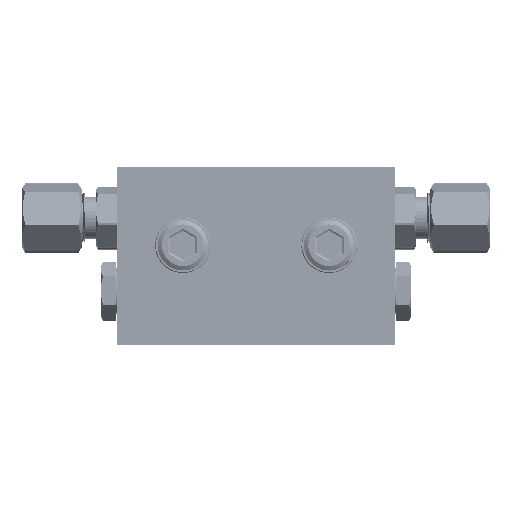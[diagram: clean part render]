
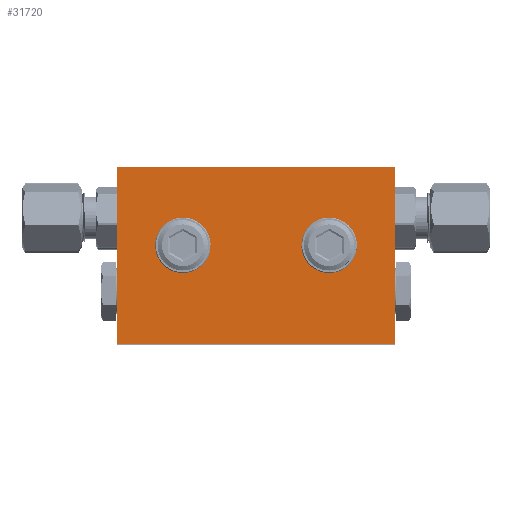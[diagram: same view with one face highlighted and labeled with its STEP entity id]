
A CAD part, top view. The second image highlights one B-rep face of the part: STEP entity #31720.
In plain terms, the highlighted planar face has unit normal (0, 0, 1) as drawn and (0, 0, -1) by its records, which use the part's own axes.
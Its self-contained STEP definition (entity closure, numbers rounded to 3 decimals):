
#559 = DIRECTION ( 'NONE',  ( -1., 0., 0. ) ) ;
#979 = ORIENTED_EDGE ( 'NONE', *, *, #11544, .F. ) ;
#1052 = VERTEX_POINT ( 'NONE', #14261 ) ;
#1756 = LINE ( 'NONE', #25021, #7982 ) ;
#2335 = PLANE ( 'NONE',  #35427 ) ;
#2770 = FACE_OUTER_BOUND ( 'NONE', #35326, .T. ) ;
#3629 = VERTEX_POINT ( 'NONE', #22700 ) ;
#3691 = DIRECTION ( 'NONE',  ( 0., 0., -1. ) ) ;
#4173 = EDGE_CURVE ( 'NONE', #22596, #22596, #16539, .T. ) ;
#5025 = VERTEX_POINT ( 'NONE', #14115 ) ;
#5037 = CIRCLE ( 'NONE', #8441, 3.1 ) ;
#5828 = ORIENTED_EDGE ( 'NONE', *, *, #16849, .F. ) ;
#6237 = CARTESIAN_POINT ( 'NONE',  ( 0., 0., -4.85 ) ) ;
#6912 = CARTESIAN_POINT ( 'NONE',  ( 14.5, -15.5, -4.85 ) ) ;
#7982 = VECTOR ( 'NONE', #28532, 1000. ) ;
#8441 = AXIS2_PLACEMENT_3D ( 'NONE', #6912, #3691, #16900 ) ;
#10057 = CARTESIAN_POINT ( 'NONE',  ( -27.5, 0., -4.85 ) ) ;
#11087 = ORIENTED_EDGE ( 'NONE', *, *, #37575, .F. ) ;
#11544 = EDGE_CURVE ( 'NONE', #3629, #25929, #28338, .T. ) ;
#12031 = EDGE_LOOP ( 'NONE', ( #5828 ) ) ;
#14115 = CARTESIAN_POINT ( 'NONE',  ( 27.5, -35., -4.85 ) ) ;
#14261 = CARTESIAN_POINT ( 'NONE',  ( 11.4, -15.5, -4.85 ) ) ;
#14899 = CARTESIAN_POINT ( 'NONE',  ( -27.5, -35., -4.85 ) ) ;
#16539 = CIRCLE ( 'NONE', #36139, 3.1 ) ;
#16849 = EDGE_CURVE ( 'NONE', #1052, #1052, #5037, .T. ) ;
#16900 = DIRECTION ( 'NONE',  ( -1., 0., 0. ) ) ;
#18789 = VECTOR ( 'NONE', #559, 1000. ) ;
#19311 = CARTESIAN_POINT ( 'NONE',  ( 27.5, 0., -4.85 ) ) ;
#21922 = DIRECTION ( 'NONE',  ( 0., 0., -1. ) ) ;
#22174 = VERTEX_POINT ( 'NONE', #14899 ) ;
#22385 = CARTESIAN_POINT ( 'NONE',  ( -11.4, -15.5, -4.85 ) ) ;
#22533 = VECTOR ( 'NONE', #32694, 1000. ) ;
#22596 = VERTEX_POINT ( 'NONE', #22385 ) ;
#22700 = CARTESIAN_POINT ( 'NONE',  ( 27.5, 0., -4.85 ) ) ;
#25021 = CARTESIAN_POINT ( 'NONE',  ( 0., -35., -4.85 ) ) ;
#25407 = DIRECTION ( 'NONE',  ( 0., -1., 0. ) ) ;
#25447 = DIRECTION ( 'NONE',  ( 1., 0., 0. ) ) ;
#25842 = CARTESIAN_POINT ( 'NONE',  ( -27.5, 0., -4.85 ) ) ;
#25929 = VERTEX_POINT ( 'NONE', #10057 ) ;
#27632 = VECTOR ( 'NONE', #25407, 1000. ) ;
#28338 = LINE ( 'NONE', #31242, #18789 ) ;
#28532 = DIRECTION ( 'NONE',  ( 1., 0., 0. ) ) ;
#28692 = LINE ( 'NONE', #25842, #27632 ) ;
#28897 = FACE_BOUND ( 'NONE', #29336, .T. ) ;
#29336 = EDGE_LOOP ( 'NONE', ( #32476 ) ) ;
#29566 = FACE_BOUND ( 'NONE', #12031, .T. ) ;
#31242 = CARTESIAN_POINT ( 'NONE',  ( 0., 0., -4.85 ) ) ;
#31720 = ADVANCED_FACE ( 'NONE', ( #28897, #29566, #2770 ), #2335, .F. ) ;
#32476 = ORIENTED_EDGE ( 'NONE', *, *, #4173, .F. ) ;
#32694 = DIRECTION ( 'NONE',  ( 0., 1., 0. ) ) ;
#33071 = DIRECTION ( 'NONE',  ( 0., 0., 1. ) ) ;
#35326 = EDGE_LOOP ( 'NONE', ( #11087, #37158, #979, #42488 ) ) ;
#35427 = AXIS2_PLACEMENT_3D ( 'NONE', #6237, #33071, #43120 ) ;
#36025 = EDGE_CURVE ( 'NONE', #5025, #3629, #36376, .T. ) ;
#36139 = AXIS2_PLACEMENT_3D ( 'NONE', #38554, #21922, #25447 ) ;
#36376 = LINE ( 'NONE', #19311, #22533 ) ;
#37158 = ORIENTED_EDGE ( 'NONE', *, *, #41379, .F. ) ;
#37575 = EDGE_CURVE ( 'NONE', #22174, #5025, #1756, .T. ) ;
#38554 = CARTESIAN_POINT ( 'NONE',  ( -14.5, -15.5, -4.85 ) ) ;
#41379 = EDGE_CURVE ( 'NONE', #25929, #22174, #28692, .T. ) ;
#42488 = ORIENTED_EDGE ( 'NONE', *, *, #36025, .F. ) ;
#43120 = DIRECTION ( 'NONE',  ( 1., 0., 0. ) ) ;
